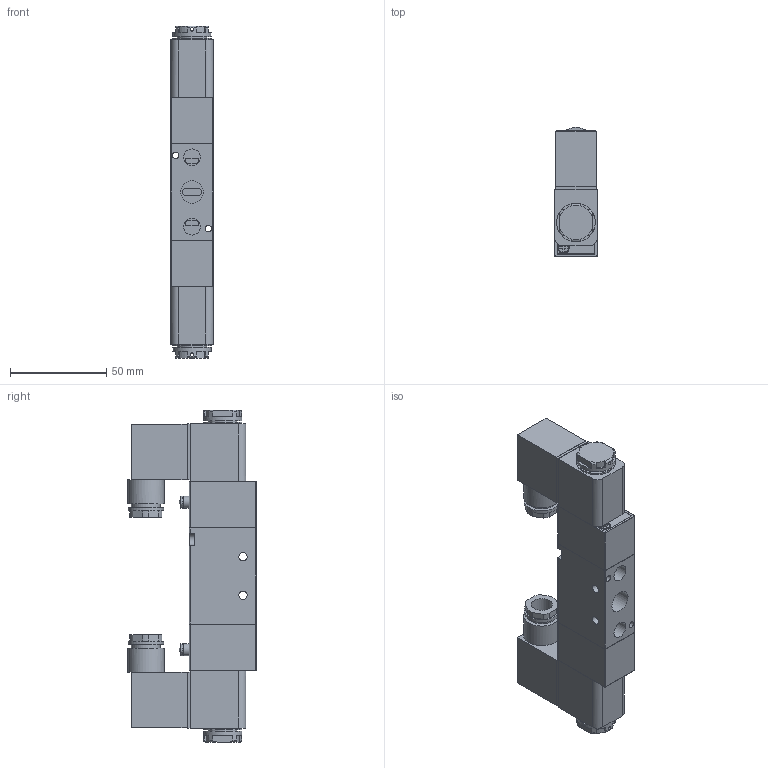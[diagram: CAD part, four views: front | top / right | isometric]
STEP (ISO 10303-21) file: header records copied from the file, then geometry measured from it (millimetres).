
FILE_DESCRIPTION(/* description */ (''),/* implementation_level */ '2;1');
FILE_NAME(/* name */ 'X:\Zeichnungen\3D\Basic-Line\Ventile\86-MV-5-14-520-M42.stp',/* time_stamp */ '2015-02-25T15:19:54+01:00',/* author */ ('Tschernatsch'),/* organization */ (''),/* preprocessor_version */ 'ST-DEVELOPER v15.2',/* originating_system */ 'Autodesk Inventor 2014',/* authorisation */ '');
FILE_SCHEMA (('AUTOMOTIVE_DESIGN { 1 0 10303 214 3 1 1 }'));
Length unit declared in the file: millimetre
Products named in the file (1): 5V220-08-DC24-Ôð+-+
Bounding box: 22 x 66.95 x 172.5 mm (x, y, z)
Volume: 155989.7 mm3; surface area: 34364.6 mm2
Topology: 1 solids, 1 shells, 425 faces, 1092 edges, 695 vertices
Faces by surface type: plane 318, cylinder 89, torus 14, cone 4
Full cylindrical faces by diameter (mm): 1.8 x2, 3.3 x2, 4.3 x2, 5.2 x4, 6 x2, 6.25 x2, 7 x2, 8.8 x2, 10.8 x2, 11.8 x3, 15 x2, 15.2 x2, 18.4 x2, 19 x2, 20 x4
Entity records: 12854 total; most frequent: CARTESIAN_POINT 2488, DIRECTION 2176, ORIENTED_EDGE 2088, EDGE_CURVE 1044, AXIS2_PLACEMENT_3D 740, LINE 696, VECTOR 696, VERTEX_POINT 684
